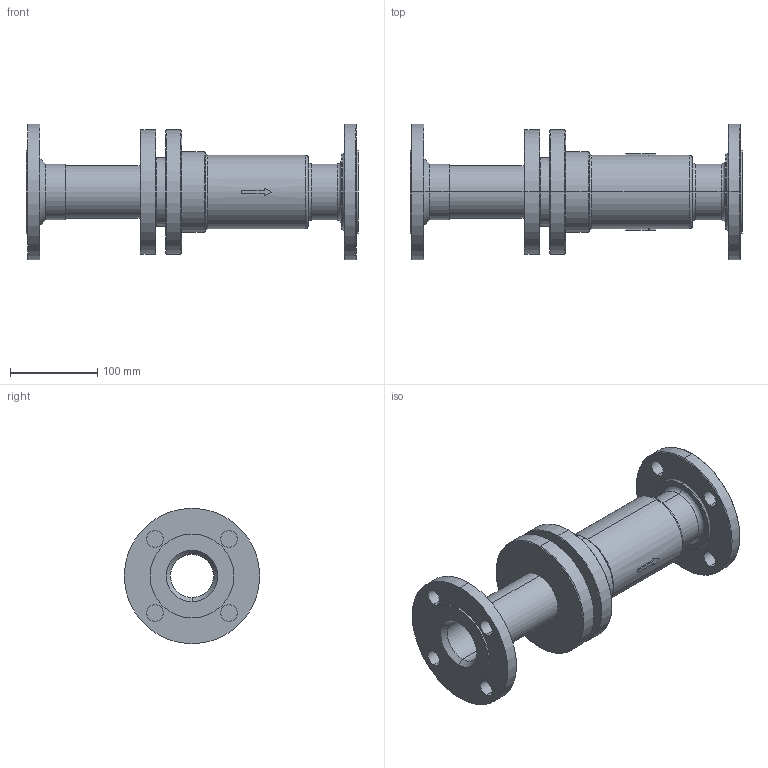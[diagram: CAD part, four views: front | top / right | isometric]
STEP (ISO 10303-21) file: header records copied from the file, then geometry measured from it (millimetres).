
FILE_DESCRIPTION( (''), '2;1');
FILE_NAME ('PC1027.9516.ES-10-100 50A_3193.stp','2025-07-30T12:38:02',(''),(''),'spGate 20.6.3 (****-****-****-****)','','');
FILE_SCHEMA (('AUTOMOTIVE_DESIGN'));
Length unit declared in the file: millimetre
Bounding box: 380 x 155 x 155 mm (x, y, z)
Volume: 1723455.3 mm3; surface area: 273673.3 mm2
Topology: 1 solids, 1 shells, 108 faces, 246 edges, 154 vertices
Faces by surface type: cylinder 44, bspline 34, plane 30
Entity records: 5447 total; most frequent: CARTESIAN_POINT 1128, ORIENTED_EDGE 492, DIRECTION 444, COLOUR_RGB 355, PRESENTATION_STYLE_ASSIGNMENT 355, STYLED_ITEM 355, EDGE_CURVE 246, DRAUGHTING_PRE_DEFINED_CURVE_FONT 246
